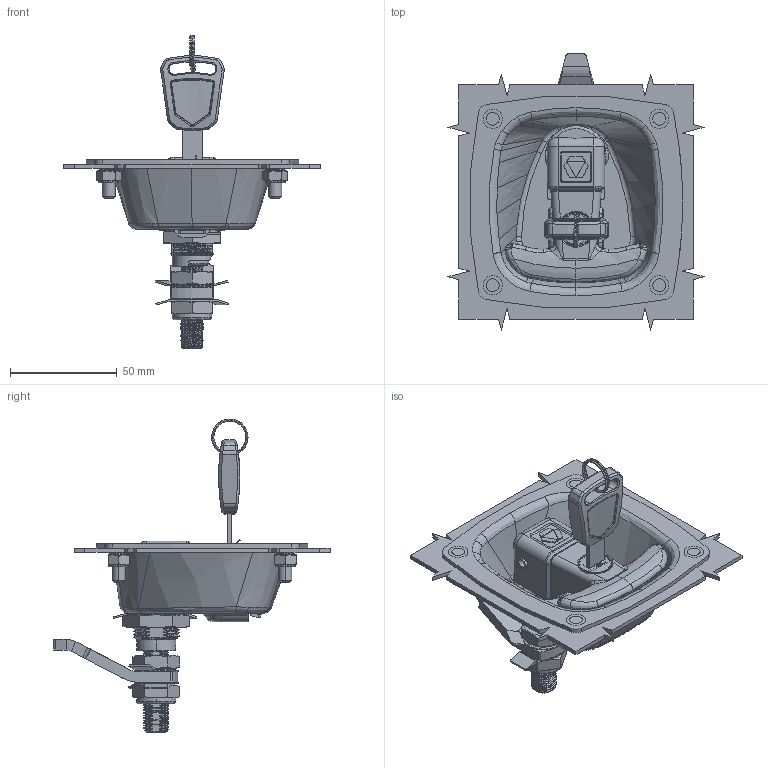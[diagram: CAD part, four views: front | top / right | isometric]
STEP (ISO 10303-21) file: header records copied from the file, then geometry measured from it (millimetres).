
FILE_DESCRIPTION (( 'STEP AP203' ), '1' );
FILE_NAME ('MS866-40醱啣坶.STEP', '2022-03-21T08:13:59', ( 'SJ' ), ( '' ), 'SwSTEP 2.0', 'SolidWorks 2020', '' );
FILE_SCHEMA (( 'CONFIG_CONTROL_DESIGN' ));
Length unit declared in the file: millimetre
Products named in the file (37): 8SJ_K64-3_0320_1; 3508667005; 5SJ_L2D3640_0060_1_2_ASM; 3658666002; 8SJ_L2D3640_0250_1; M120001; 3578665016; 8SJ_L1C0660_0570_1; 3718667035; MS866-40醱啣坶; 8SJ_K64-3_0310_1; 3028668017; 3018663017; 8SJ_L2D3640_040_1; 8SJ_K64-3_0940_1; 3198668036; 8SJ_L2D0030_0270-24_1; 8SJ_L2D0040_0720_1; 8SJ_L2D0030_0270-26_1; 3098662509; 62-0-43313; 2178668058_ASM; S1W48N15001; 3508667006; 3558662103; 3767050056; DOOR; 120001; 01-0-2345-15; 8SJ_L1C0660_0260_1; 8SJ_MS702_0330_1; 62-0-43314; 3028668018; 3990105558; 8SJ_K64-3_0290_1_ASM; 8SJ_L2D0030_0270-25_1; N4-0-23971-19
Assembly tree (50 placements, depth 4):
  MS866-40醱啣坶
    2178668058_ASM
      3198668036
      3990105558  x4
    3658666002
    3018663017
    3767050056
    3098662509
    3558662103
    3028668018
    3028668017
    3718667035
    62-0-43313
    62-0-43314  x2
    01-0-2345-15  x4
    N4-0-23971-19  x4
    3578665016
    S1W48N15001
    DOOR
    M120001
    3508667006  x2
    3508667005
    5SJ_L2D3640_0060_1_2_ASM
      8SJ_L1C0660_0570_1
      8SJ_L1C0660_0260_1
      8SJ_MS702_0330_1
      8SJ_L2D0030_0270-26_1  x2
      8SJ_K64-3_0290_1_ASM
        8SJ_K64-3_0310_1
        8SJ_K64-3_0940_1  x2
        8SJ_K64-3_0320_1
      8SJ_L2D3640_0250_1
      8SJ_L2D3640_040_1
      8SJ_L2D0030_0270-25_1  x2
      8SJ_L2D0040_0720_1
      8SJ_L2D0030_0270-24_1
    120001
Bounding box: 120 x 129.5 x 147.06 mm (x, y, z)
Volume: 105910 mm3; surface area: 88439.4 mm2
Topology: 45 solids, 48 shells, 3027 faces, 7749 edges, 4810 vertices
Faces by surface type: bspline 1240, plane 988, cylinder 654, cone 144, torus 1
Entity records: 167524 total; most frequent: CARTESIAN_POINT 117769, ORIENTED_EDGE 11194, DIRECTION 6533, EDGE_CURVE 5601, VERTEX_POINT 3510, B_SPLINE_CURVE_WITH_KNOTS 2374, VECTOR 2311, LINE 2311
